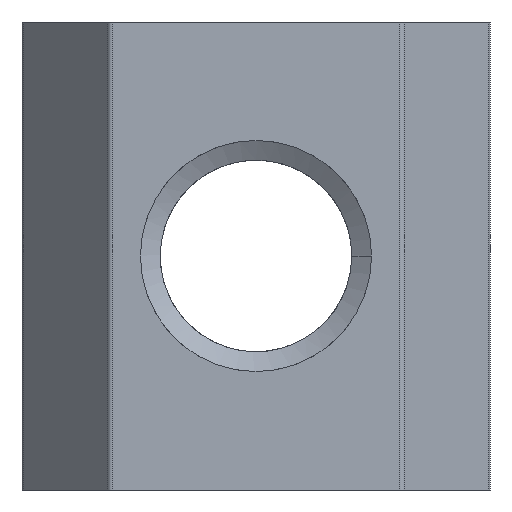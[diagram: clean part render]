
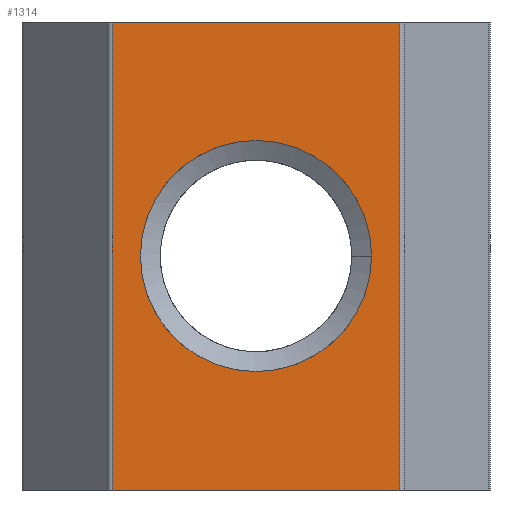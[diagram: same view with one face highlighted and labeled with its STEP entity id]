
A CAD part, front view. The second image highlights one B-rep face of the part: STEP entity #1314.
In plain terms, the highlighted planar face has unit normal (0, -1, 0).
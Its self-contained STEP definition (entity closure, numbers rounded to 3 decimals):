
#60 = DIRECTION ( 'NONE',  ( -1., 0., 0. ) ) ;
#76 = DIRECTION ( 'NONE',  ( -1., 0., 0. ) ) ;
#83 = AXIS2_PLACEMENT_3D ( 'NONE', #2587, #779, #76 ) ;
#123 = EDGE_CURVE ( 'NONE', #2108, #355, #1176, .T. ) ;
#125 = DIRECTION ( 'NONE',  ( 0., 1., 0. ) ) ;
#152 = EDGE_LOOP ( 'NONE', ( #1968, #462, #2483, #1888 ) ) ;
#157 = CARTESIAN_POINT ( 'NONE',  ( 4.908, -6., 8. ) ) ;
#159 = EDGE_CURVE ( 'NONE', #1337, #931, #2366, .T. ) ;
#237 = CARTESIAN_POINT ( 'NONE',  ( 3.95, -6., 0. ) ) ;
#261 = EDGE_CURVE ( 'NONE', #355, #1337, #1709, .T. ) ;
#355 = VERTEX_POINT ( 'NONE', #840 ) ;
#447 = EDGE_CURVE ( 'NONE', #2108, #931, #2536, .T. ) ;
#450 = DIRECTION ( 'NONE',  ( 1., 0., 0. ) ) ;
#462 = ORIENTED_EDGE ( 'NONE', *, *, #123, .T. ) ;
#488 = VECTOR ( 'NONE', #450, 1000. ) ;
#535 = CARTESIAN_POINT ( 'NONE',  ( -4.908, -6., 8. ) ) ;
#623 = CARTESIAN_POINT ( 'NONE',  ( 4.908, -6., 8. ) ) ;
#634 = FACE_BOUND ( 'NONE', #864, .T. ) ;
#694 = CIRCLE ( 'NONE', #83, 3.95 ) ;
#779 = DIRECTION ( 'NONE',  ( 0., 1., 0. ) ) ;
#840 = CARTESIAN_POINT ( 'NONE',  ( -4.908, -6., -8. ) ) ;
#846 = CARTESIAN_POINT ( 'NONE',  ( 4.908, -6., -8. ) ) ;
#861 = VECTOR ( 'NONE', #1992, 1000. ) ;
#864 = EDGE_LOOP ( 'NONE', ( #2982, #1580 ) ) ;
#925 = CARTESIAN_POINT ( 'NONE',  ( 5., -6., -8. ) ) ;
#931 = VERTEX_POINT ( 'NONE', #157 ) ;
#1083 = DIRECTION ( 'NONE',  ( 0., 0., 1. ) ) ;
#1122 = AXIS2_PLACEMENT_3D ( 'NONE', #2689, #125, #1510 ) ;
#1145 = VERTEX_POINT ( 'NONE', #1873 ) ;
#1176 = LINE ( 'NONE', #2688, #861 ) ;
#1263 = DIRECTION ( 'NONE',  ( 1., 0., 0. ) ) ;
#1314 = ADVANCED_FACE ( 'NONE', ( #634, #2941 ), #2911, .F. ) ;
#1337 = VERTEX_POINT ( 'NONE', #846 ) ;
#1510 = DIRECTION ( 'NONE',  ( -1., 0., 0. ) ) ;
#1525 = EDGE_CURVE ( 'NONE', #2589, #1145, #2099, .T. ) ;
#1580 = ORIENTED_EDGE ( 'NONE', *, *, #2741, .T. ) ;
#1676 = VECTOR ( 'NONE', #1083, 1000. ) ;
#1709 = LINE ( 'NONE', #925, #488 ) ;
#1731 = CARTESIAN_POINT ( 'NONE',  ( 5., -6., 8. ) ) ;
#1748 = VECTOR ( 'NONE', #1263, 1000. ) ;
#1873 = CARTESIAN_POINT ( 'NONE',  ( -3.95, -6., 0. ) ) ;
#1888 = ORIENTED_EDGE ( 'NONE', *, *, #159, .T. ) ;
#1968 = ORIENTED_EDGE ( 'NONE', *, *, #447, .F. ) ;
#1992 = DIRECTION ( 'NONE',  ( 0., 0., -1. ) ) ;
#2099 = CIRCLE ( 'NONE', #2823, 3.95 ) ;
#2108 = VERTEX_POINT ( 'NONE', #535 ) ;
#2366 = LINE ( 'NONE', #623, #1676 ) ;
#2385 = DIRECTION ( 'NONE',  ( 0., 1., 0. ) ) ;
#2483 = ORIENTED_EDGE ( 'NONE', *, *, #261, .T. ) ;
#2536 = LINE ( 'NONE', #1731, #1748 ) ;
#2587 = CARTESIAN_POINT ( 'NONE',  ( 0., -6., 0. ) ) ;
#2589 = VERTEX_POINT ( 'NONE', #237 ) ;
#2688 = CARTESIAN_POINT ( 'NONE',  ( -4.908, -6., 8. ) ) ;
#2689 = CARTESIAN_POINT ( 'NONE',  ( 5., -6., 8. ) ) ;
#2741 = EDGE_CURVE ( 'NONE', #1145, #2589, #694, .T. ) ;
#2823 = AXIS2_PLACEMENT_3D ( 'NONE', #2839, #2385, #60 ) ;
#2839 = CARTESIAN_POINT ( 'NONE',  ( 0., -6., 0. ) ) ;
#2911 = PLANE ( 'NONE',  #1122 ) ;
#2941 = FACE_OUTER_BOUND ( 'NONE', #152, .T. ) ;
#2982 = ORIENTED_EDGE ( 'NONE', *, *, #1525, .T. ) ;
